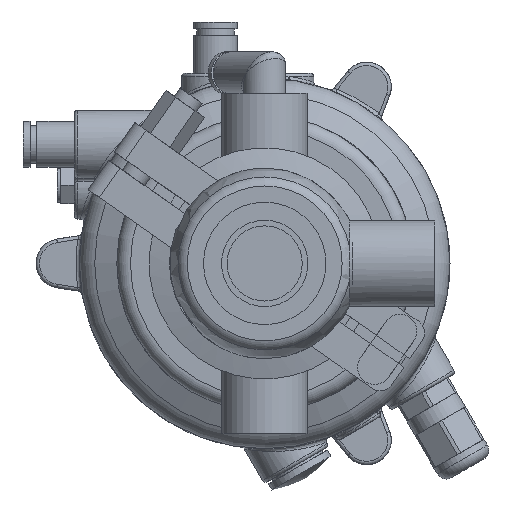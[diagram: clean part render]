
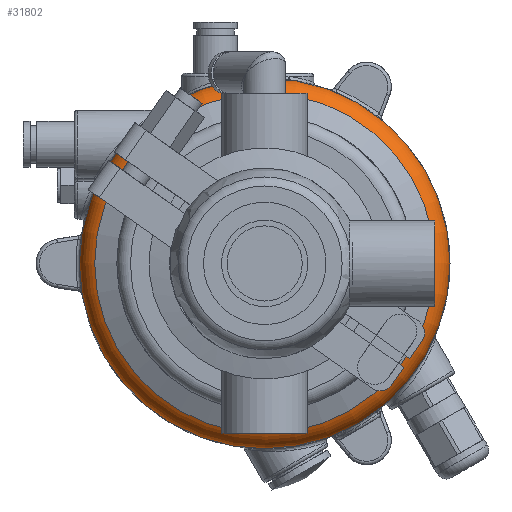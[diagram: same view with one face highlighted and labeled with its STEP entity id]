
A CAD part, front view. The second image highlights one B-rep face of the part: STEP entity #31802.
In plain terms, the highlighted toroidal (fillet/blend) face has major radius 46.5 mm and minor radius 8 mm.
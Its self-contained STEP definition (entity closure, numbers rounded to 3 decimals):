
#1497 = CIRCLE ( 'NONE', #46323, 54.5 ) ;
#9134 = TOROIDAL_SURFACE ( 'NONE', #13969, 46.5, 8. ) ;
#9414 = CARTESIAN_POINT ( 'NONE',  ( 0., 14.022, 0. ) ) ;
#13865 = EDGE_LOOP ( 'NONE', ( #15614 ) ) ;
#13969 = AXIS2_PLACEMENT_3D ( 'NONE', #15268, #37550, #19574 ) ;
#15268 = CARTESIAN_POINT ( 'NONE',  ( 0., 14.022, 0. ) ) ;
#15614 = ORIENTED_EDGE ( 'NONE', *, *, #32835, .T. ) ;
#18097 = DIRECTION ( 'NONE',  ( 0., 0., -1. ) ) ;
#19574 = DIRECTION ( 'NONE',  ( 0., 0., -1. ) ) ;
#22873 = DIRECTION ( 'NONE',  ( 0., 0., -1. ) ) ;
#24635 = VERTEX_POINT ( 'NONE', #51828 ) ;
#24769 = FACE_OUTER_BOUND ( 'NONE', #13865, .T. ) ;
#31802 = ADVANCED_FACE ( 'NONE', ( #24769, #43034 ), #9134, .T. ) ;
#32803 = EDGE_LOOP ( 'NONE', ( #38358 ) ) ;
#32835 = EDGE_CURVE ( 'NONE', #24635, #24635, #1497, .T. ) ;
#37550 = DIRECTION ( 'NONE',  ( 0., -1., 0. ) ) ;
#38358 = ORIENTED_EDGE ( 'NONE', *, *, #42461, .F. ) ;
#40940 = CARTESIAN_POINT ( 'NONE',  ( 0., 6.832, 0. ) ) ;
#40983 = CARTESIAN_POINT ( 'NONE',  ( 0., 6.832, -50.007 ) ) ;
#42461 = EDGE_CURVE ( 'NONE', #50839, #50839, #58349, .T. ) ;
#43034 = FACE_OUTER_BOUND ( 'NONE', #32803, .T. ) ;
#44667 = AXIS2_PLACEMENT_3D ( 'NONE', #40940, #55395, #18097 ) ;
#46323 = AXIS2_PLACEMENT_3D ( 'NONE', #9414, #50670, #22873 ) ;
#50670 = DIRECTION ( 'NONE',  ( 0., -1., 0. ) ) ;
#50839 = VERTEX_POINT ( 'NONE', #40983 ) ;
#51828 = CARTESIAN_POINT ( 'NONE',  ( 0., 14.022, -54.5 ) ) ;
#55395 = DIRECTION ( 'NONE',  ( 0., -1., 0. ) ) ;
#58349 = CIRCLE ( 'NONE', #44667, 50.007 ) ;
